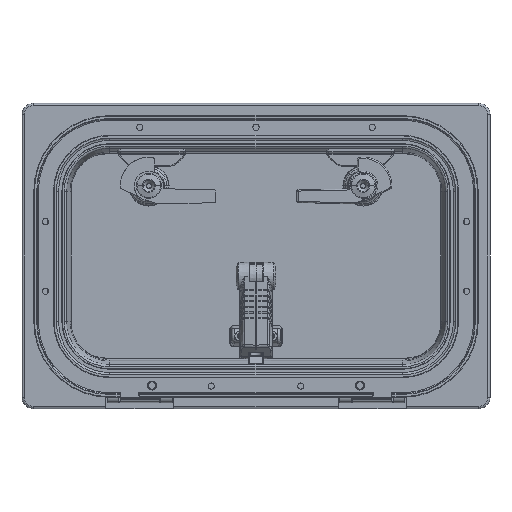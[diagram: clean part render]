
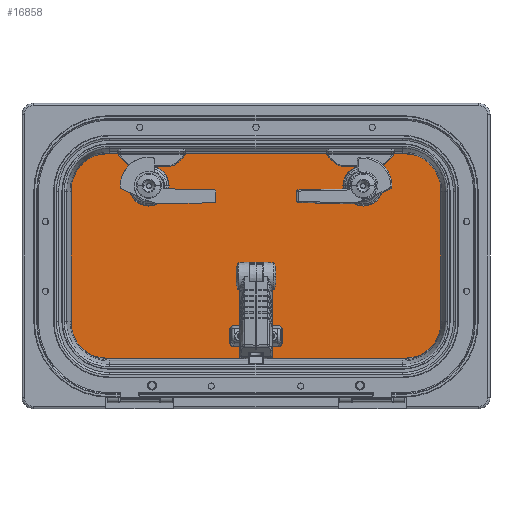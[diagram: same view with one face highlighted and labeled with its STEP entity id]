
A CAD part, front view. The second image highlights one B-rep face of the part: STEP entity #16858.
In plain terms, the highlighted planar face has unit normal (0, -1, 0).
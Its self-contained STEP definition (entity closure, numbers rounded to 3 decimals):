
#15077=DIRECTION('',(1.,0.,0.));
#15078=VECTOR('',#15077,267.);
#15079=CARTESIAN_POINT('',(-133.5,0.,-91.));
#15080=LINE('',#15079,#15078);
#15081=CARTESIAN_POINT('',(-133.5,0.,-60.));
#15082=DIRECTION('',(0.,1.,0.));
#15083=DIRECTION('',(0.,0.,-1.));
#15084=AXIS2_PLACEMENT_3D('',#15081,#15082,#15083);
#15086=DIRECTION('',(0.,0.,-1.));
#15087=VECTOR('',#15086,120.);
#15088=CARTESIAN_POINT('',(-164.5,0.,60.));
#15089=LINE('',#15088,#15087);
#15090=CARTESIAN_POINT('',(-133.5,0.,60.));
#15091=DIRECTION('',(0.,1.,0.));
#15092=DIRECTION('',(-1.,0.,0.));
#15093=AXIS2_PLACEMENT_3D('',#15090,#15091,#15092);
#15095=DIRECTION('',(-1.,0.,0.));
#15096=VECTOR('',#15095,267.);
#15097=CARTESIAN_POINT('',(133.5,0.,91.));
#15098=LINE('',#15097,#15096);
#15099=CARTESIAN_POINT('',(133.5,0.,60.));
#15100=DIRECTION('',(0.,1.,0.));
#15101=DIRECTION('',(0.,0.,1.));
#15102=AXIS2_PLACEMENT_3D('',#15099,#15100,#15101);
#15104=DIRECTION('',(0.,0.,1.));
#15105=VECTOR('',#15104,120.);
#15106=CARTESIAN_POINT('',(164.5,0.,-60.));
#15107=LINE('',#15106,#15105);
#15108=CARTESIAN_POINT('',(133.5,0.,-60.));
#15109=DIRECTION('',(0.,1.,0.));
#15110=DIRECTION('',(1.,0.,0.));
#15111=AXIS2_PLACEMENT_3D('',#15108,#15109,#15110);
#15165=CARTESIAN_POINT('',(95.5,0.,62.5));
#15166=DIRECTION('',(0.,-1.,0.));
#15167=DIRECTION('',(-1.,0.,0.));
#15168=AXIS2_PLACEMENT_3D('',#15165,#15166,#15167);
#15170=CARTESIAN_POINT('',(95.5,0.,62.5));
#15171=DIRECTION('',(0.,-1.,0.));
#15172=DIRECTION('',(1.,0.,0.));
#15173=AXIS2_PLACEMENT_3D('',#15170,#15171,#15172);
#15175=CARTESIAN_POINT('',(-95.5,0.,62.5));
#15176=DIRECTION('',(0.,1.,0.));
#15177=DIRECTION('',(1.,0.,0.));
#15178=AXIS2_PLACEMENT_3D('',#15175,#15176,#15177);
#15180=CARTESIAN_POINT('',(-95.5,0.,62.5));
#15181=DIRECTION('',(0.,1.,0.));
#15182=DIRECTION('',(-1.,0.,0.));
#15183=AXIS2_PLACEMENT_3D('',#15180,#15181,#15182);
#15185=CARTESIAN_POINT('',(19.5,0.,-76.8));
#15186=DIRECTION('',(0.,-1.,0.));
#15187=DIRECTION('',(0.,0.,-1.));
#15188=AXIS2_PLACEMENT_3D('',#15185,#15186,#15187);
#15190=DIRECTION('',(0.,0.,1.));
#15191=VECTOR('',#15190,10.8);
#15192=CARTESIAN_POINT('',(23.5,0.,-76.8));
#15193=LINE('',#15192,#15191);
#15194=CARTESIAN_POINT('',(19.5,0.,-66.));
#15195=DIRECTION('',(0.,-1.,0.));
#15196=DIRECTION('',(1.,0.,0.));
#15197=AXIS2_PLACEMENT_3D('',#15194,#15195,#15196);
#15199=DIRECTION('',(-1.,0.,0.));
#15200=VECTOR('',#15199,39.);
#15201=CARTESIAN_POINT('',(19.5,0.,-62.));
#15202=LINE('',#15201,#15200);
#15203=CARTESIAN_POINT('',(-19.5,0.,-66.));
#15204=DIRECTION('',(0.,-1.,0.));
#15205=DIRECTION('',(0.,0.,1.));
#15206=AXIS2_PLACEMENT_3D('',#15203,#15204,#15205);
#15208=DIRECTION('',(0.,0.,-1.));
#15209=VECTOR('',#15208,10.8);
#15210=CARTESIAN_POINT('',(-23.5,0.,-66.));
#15211=LINE('',#15210,#15209);
#15212=CARTESIAN_POINT('',(-19.5,0.,-76.8));
#15213=DIRECTION('',(0.,-1.,0.));
#15214=DIRECTION('',(-1.,0.,0.));
#15215=AXIS2_PLACEMENT_3D('',#15212,#15213,#15214);
#15217=DIRECTION('',(1.,0.,0.));
#15218=VECTOR('',#15217,39.);
#15219=CARTESIAN_POINT('',(-19.5,0.,-80.8));
#15220=LINE('',#15219,#15218);
#16545=CARTESIAN_POINT('',(-133.5,0.,-91.));
#16546=CARTESIAN_POINT('',(133.5,0.,-91.));
#16547=VERTEX_POINT('',#16545);
#16548=VERTEX_POINT('',#16546);
#16549=CARTESIAN_POINT('',(164.5,0.,-60.));
#16550=VERTEX_POINT('',#16549);
#16551=CARTESIAN_POINT('',(164.5,0.,60.));
#16552=VERTEX_POINT('',#16551);
#16553=CARTESIAN_POINT('',(133.5,0.,91.));
#16554=VERTEX_POINT('',#16553);
#16555=CARTESIAN_POINT('',(-133.5,0.,91.));
#16556=VERTEX_POINT('',#16555);
#16557=CARTESIAN_POINT('',(-164.5,0.,60.));
#16558=VERTEX_POINT('',#16557);
#16559=CARTESIAN_POINT('',(-164.5,0.,-60.));
#16560=VERTEX_POINT('',#16559);
#16697=CARTESIAN_POINT('',(77.5,0.,62.5));
#16698=CARTESIAN_POINT('',(113.5,0.,62.5));
#16699=VERTEX_POINT('',#16697);
#16700=VERTEX_POINT('',#16698);
#16721=CARTESIAN_POINT('',(-77.5,0.,62.5));
#16722=VERTEX_POINT('',#16721);
#16723=CARTESIAN_POINT('',(-113.5,0.,62.5));
#16724=VERTEX_POINT('',#16723);
#16781=CARTESIAN_POINT('',(19.5,0.,-80.8));
#16782=CARTESIAN_POINT('',(23.5,0.,-76.8));
#16783=VERTEX_POINT('',#16781);
#16784=VERTEX_POINT('',#16782);
#16785=CARTESIAN_POINT('',(23.5,0.,-66.));
#16786=VERTEX_POINT('',#16785);
#16787=CARTESIAN_POINT('',(19.5,0.,-62.));
#16788=VERTEX_POINT('',#16787);
#16789=CARTESIAN_POINT('',(-19.5,0.,-62.));
#16790=VERTEX_POINT('',#16789);
#16791=CARTESIAN_POINT('',(-23.5,0.,-66.));
#16792=VERTEX_POINT('',#16791);
#16793=CARTESIAN_POINT('',(-23.5,0.,-76.8));
#16794=VERTEX_POINT('',#16793);
#16795=CARTESIAN_POINT('',(-19.5,0.,-80.8));
#16796=VERTEX_POINT('',#16795);
#16805=CARTESIAN_POINT('',(0.,0.,0.));
#16806=DIRECTION('',(0.,1.,0.));
#16807=DIRECTION('',(1.,0.,0.));
#16808=AXIS2_PLACEMENT_3D('',#16805,#16806,#16807);
#16809=PLANE('',#16808);
#16811=ORIENTED_EDGE('',*,*,#16810,.F.);
#16813=ORIENTED_EDGE('',*,*,#16812,.T.);
#16815=ORIENTED_EDGE('',*,*,#16814,.F.);
#16817=ORIENTED_EDGE('',*,*,#16816,.T.);
#16819=ORIENTED_EDGE('',*,*,#16818,.F.);
#16821=ORIENTED_EDGE('',*,*,#16820,.T.);
#16823=ORIENTED_EDGE('',*,*,#16822,.F.);
#16825=ORIENTED_EDGE('',*,*,#16824,.T.);
#16826=EDGE_LOOP('',(#16811,#16813,#16815,#16817,#16819,#16821,#16823,#16825));
#16827=FACE_OUTER_BOUND('',#16826,.F.);
#16829=ORIENTED_EDGE('',*,*,#16828,.T.);
#16831=ORIENTED_EDGE('',*,*,#16830,.T.);
#16832=EDGE_LOOP('',(#16829,#16831));
#16833=FACE_BOUND('',#16832,.F.);
#16835=ORIENTED_EDGE('',*,*,#16834,.F.);
#16837=ORIENTED_EDGE('',*,*,#16836,.F.);
#16838=EDGE_LOOP('',(#16835,#16837));
#16839=FACE_BOUND('',#16838,.F.);
#16841=ORIENTED_EDGE('',*,*,#16840,.T.);
#16843=ORIENTED_EDGE('',*,*,#16842,.T.);
#16845=ORIENTED_EDGE('',*,*,#16844,.T.);
#16847=ORIENTED_EDGE('',*,*,#16846,.T.);
#16849=ORIENTED_EDGE('',*,*,#16848,.T.);
#16851=ORIENTED_EDGE('',*,*,#16850,.T.);
#16853=ORIENTED_EDGE('',*,*,#16852,.T.);
#16855=ORIENTED_EDGE('',*,*,#16854,.T.);
#16856=EDGE_LOOP('',(#16841,#16843,#16845,#16847,#16849,#16851,#16853,#16855));
#16857=FACE_BOUND('',#16856,.F.);
#16858=ADVANCED_FACE('',(#16827,#16833,#16839,#16857),#16809,.F.);
#15085=CIRCLE('',#15084,31.);
#15094=CIRCLE('',#15093,31.);
#15103=CIRCLE('',#15102,31.);
#15112=CIRCLE('',#15111,31.);
#15169=CIRCLE('',#15168,18.);
#15174=CIRCLE('',#15173,18.);
#15179=CIRCLE('',#15178,18.);
#15184=CIRCLE('',#15183,18.);
#15189=CIRCLE('',#15188,4.);
#15198=CIRCLE('',#15197,4.);
#15207=CIRCLE('',#15206,4.);
#15216=CIRCLE('',#15215,4.);
#16810=EDGE_CURVE('',#16547,#16548,#15080,.T.);
#16812=EDGE_CURVE('',#16547,#16560,#15085,.T.);
#16814=EDGE_CURVE('',#16558,#16560,#15089,.T.);
#16816=EDGE_CURVE('',#16558,#16556,#15094,.T.);
#16818=EDGE_CURVE('',#16554,#16556,#15098,.T.);
#16820=EDGE_CURVE('',#16554,#16552,#15103,.T.);
#16822=EDGE_CURVE('',#16550,#16552,#15107,.T.);
#16824=EDGE_CURVE('',#16550,#16548,#15112,.T.);
#16828=EDGE_CURVE('',#16699,#16700,#15169,.T.);
#16830=EDGE_CURVE('',#16700,#16699,#15174,.T.);
#16834=EDGE_CURVE('',#16722,#16724,#15179,.T.);
#16836=EDGE_CURVE('',#16724,#16722,#15184,.T.);
#16840=EDGE_CURVE('',#16783,#16784,#15189,.T.);
#16842=EDGE_CURVE('',#16784,#16786,#15193,.T.);
#16844=EDGE_CURVE('',#16786,#16788,#15198,.T.);
#16846=EDGE_CURVE('',#16788,#16790,#15202,.T.);
#16848=EDGE_CURVE('',#16790,#16792,#15207,.T.);
#16850=EDGE_CURVE('',#16792,#16794,#15211,.T.);
#16852=EDGE_CURVE('',#16794,#16796,#15216,.T.);
#16854=EDGE_CURVE('',#16796,#16783,#15220,.T.);
